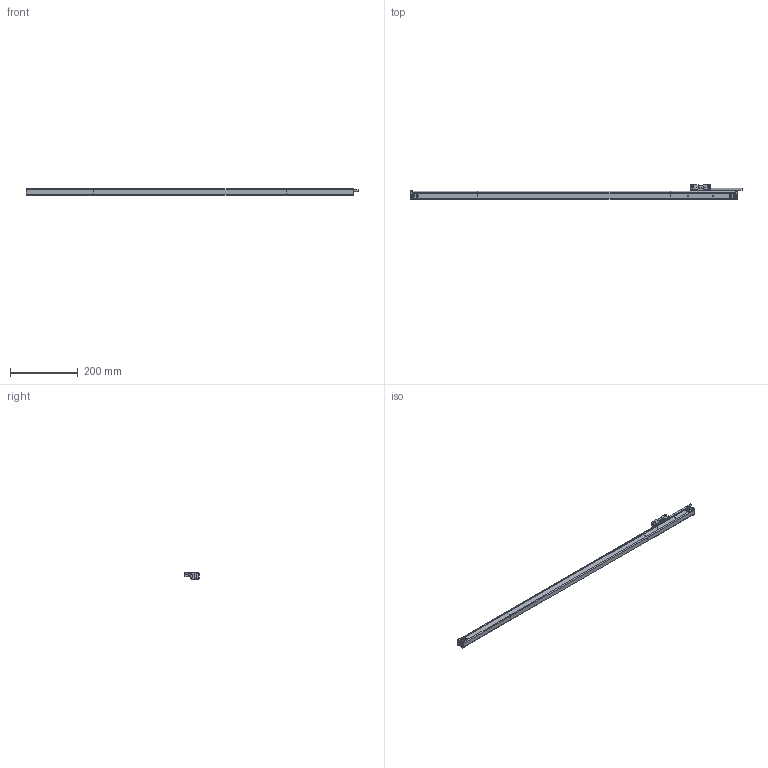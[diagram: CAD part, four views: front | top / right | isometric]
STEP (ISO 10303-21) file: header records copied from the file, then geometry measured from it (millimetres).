
FILE_DESCRIPTION( ( 'STEP AP203' ), '1' );
FILE_NAME( 'N:/Engineering/CAD_Solid/Magnescale/GBER/GB-085ER_SR138-085R.stp', '2013-03-14T10:06:27', ( ' ' ), ( ' ' ), 'XStep 1.0', ' ', ' ' );
FILE_SCHEMA( ( 'CONFIG_CONTROL_DESIGN) ( )' ) );
Length unit declared in the file: metre
Products named in the file (1): 1
Bounding box: 982.5 x 42 x 21 mm (x, y, z)
Surface area: 97395.3 mm2 (no closed solid volume)
Topology: 0 solids, 259 shells, 259 faces, 1419 edges, 1386 vertices
Faces by surface type: plane 163, cylinder 77, torus 12, cone 7
Full cylindrical faces by diameter (mm): 2.013 x2, 2.113 x2, 4 x8, 4.8 x1, 5 x2, 6 x1, 9.8 x2, 10 x2
Entity records: 13706 total; most frequent: CARTESIAN_POINT 3014, DIRECTION 2313, ORIENTED_EDGE 1377, EDGE_CURVE 1377, VERTEX_POINT 1377, LINE 961, VECTOR 961, AXIS2_PLACEMENT_3D 676
